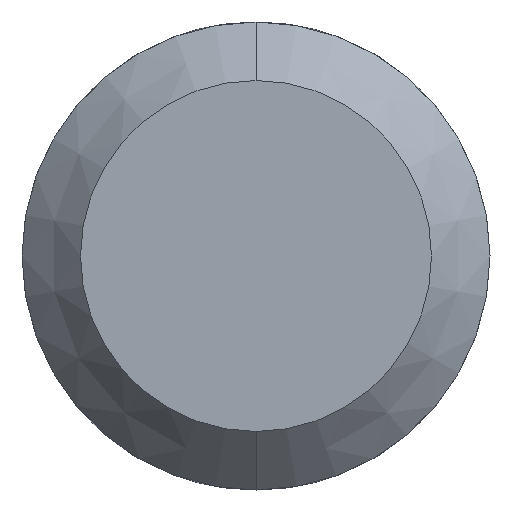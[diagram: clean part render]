
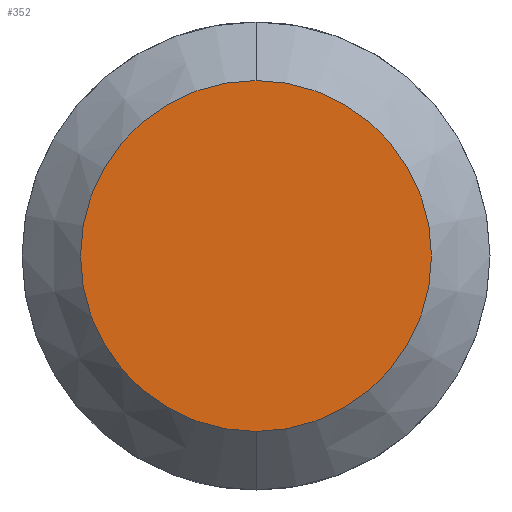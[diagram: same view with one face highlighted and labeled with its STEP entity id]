
A CAD part, front view. The second image highlights one B-rep face of the part: STEP entity #352.
In plain terms, the highlighted planar face has unit normal (0, -1, 0).
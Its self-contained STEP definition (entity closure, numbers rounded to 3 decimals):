
#8 = AXIS2_PLACEMENT_3D ( 'NONE', #141, #162, #135 ) ;
#16 = AXIS2_PLACEMENT_3D ( 'NONE', #229, #145, #151 ) ;
#21 = AXIS2_PLACEMENT_3D ( 'NONE', #287, #285, #284 ) ;
#48 = EDGE_CURVE ( 'NONE', #308, #73, #369, .T. ) ;
#59 = EDGE_CURVE ( 'NONE', #73, #308, #326, .T. ) ;
#73 = VERTEX_POINT ( 'NONE', #148 ) ;
#87 = EDGE_LOOP ( 'NONE', ( #241, #240 ) ) ;
#135 = DIRECTION ( 'NONE',  ( 0., 0., -1. ) ) ;
#141 = CARTESIAN_POINT ( 'NONE',  ( -4., 0., 0. ) ) ;
#145 = DIRECTION ( 'NONE',  ( 0., -1., 0. ) ) ;
#148 = CARTESIAN_POINT ( 'NONE',  ( 0., 0., 3. ) ) ;
#151 = DIRECTION ( 'NONE',  ( 0., 0., -1. ) ) ;
#162 = DIRECTION ( 'NONE',  ( 0., -1., 0. ) ) ;
#188 = PLANE ( 'NONE',  #8 ) ;
#228 = CARTESIAN_POINT ( 'NONE',  ( 0., 0., -3. ) ) ;
#229 = CARTESIAN_POINT ( 'NONE',  ( 0., 0., 0. ) ) ;
#240 = ORIENTED_EDGE ( 'NONE', *, *, #48, .T. ) ;
#241 = ORIENTED_EDGE ( 'NONE', *, *, #59, .T. ) ;
#264 = FACE_OUTER_BOUND ( 'NONE', #87, .T. ) ;
#284 = DIRECTION ( 'NONE',  ( 0., 0., -1. ) ) ;
#285 = DIRECTION ( 'NONE',  ( 0., -1., 0. ) ) ;
#287 = CARTESIAN_POINT ( 'NONE',  ( 0., 0., 0. ) ) ;
#308 = VERTEX_POINT ( 'NONE', #228 ) ;
#326 = CIRCLE ( 'NONE', #16, 3. ) ;
#352 = ADVANCED_FACE ( 'NONE', ( #264 ), #188, .T. ) ;
#369 = CIRCLE ( 'NONE', #21, 3. ) ;
